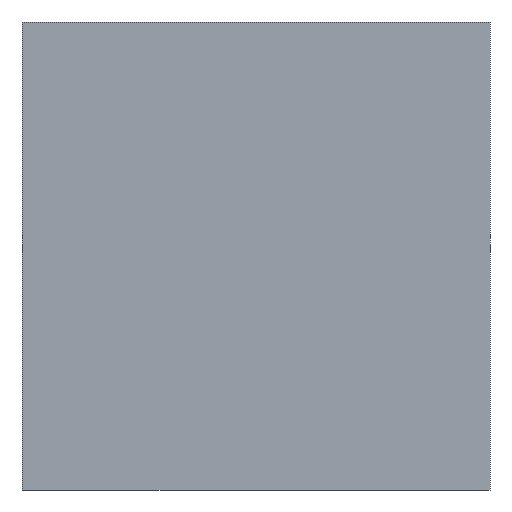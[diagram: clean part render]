
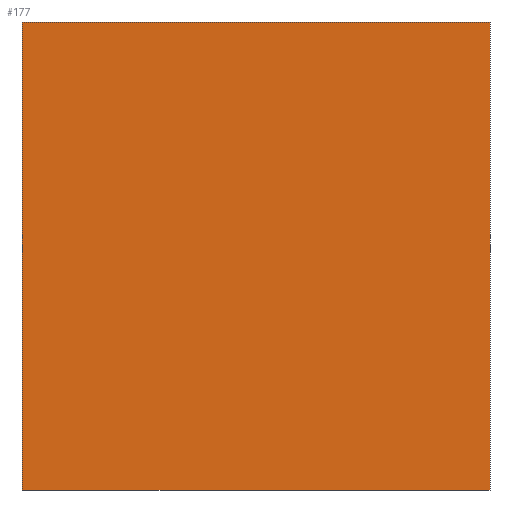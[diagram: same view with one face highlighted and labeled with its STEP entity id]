
A CAD part, left-side view. The second image highlights one B-rep face of the part: STEP entity #177.
In plain terms, the highlighted planar face has unit normal (-1, 0, 0).
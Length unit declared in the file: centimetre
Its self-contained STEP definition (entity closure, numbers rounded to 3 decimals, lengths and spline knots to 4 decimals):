
#1 = CARTESIAN_POINT ( 'NONE',  ( 0., 1000., 1000. ) ) ;
#12 = CARTESIAN_POINT ( 'NONE',  ( 0., 1000., 1000. ) ) ;
#16 = VECTOR ( 'NONE', #139, 100. ) ;
#31 = DIRECTION ( 'NONE',  ( 0., 0., -1. ) ) ;
#38 = DIRECTION ( 'NONE',  ( 1., 0., 0. ) ) ;
#62 = CARTESIAN_POINT ( 'NONE',  ( 0., 0., 0. ) ) ;
#65 = CARTESIAN_POINT ( 'NONE',  ( 0., 1000., 0. ) ) ;
#77 = DIRECTION ( 'NONE',  ( 0., -1., 0. ) ) ;
#131 = CARTESIAN_POINT ( 'NONE',  ( 0., 1000., 0. ) ) ;
#135 = CARTESIAN_POINT ( 'NONE',  ( 0., 1000., 1000. ) ) ;
#139 = DIRECTION ( 'NONE',  ( 0., 0., -1. ) ) ;
#159 = CARTESIAN_POINT ( 'NONE',  ( 0., 0., 1000. ) ) ;
#169 = ORIENTED_EDGE ( 'NONE', *, *, #418, .T. ) ;
#177 = ADVANCED_FACE ( 'NONE', ( #336 ), #329, .F. ) ;
#183 = VECTOR ( 'NONE', #325, 100. ) ;
#189 = AXIS2_PLACEMENT_3D ( 'NONE', #1, #38, #296 ) ;
#197 = LINE ( 'NONE', #131, #183 ) ;
#208 = ORIENTED_EDGE ( 'NONE', *, *, #234, .F. ) ;
#234 = EDGE_CURVE ( 'NONE', #382, #299, #272, .T. ) ;
#240 = ORIENTED_EDGE ( 'NONE', *, *, #376, .T. ) ;
#271 = LINE ( 'NONE', #339, #344 ) ;
#272 = LINE ( 'NONE', #12, #320 ) ;
#296 = DIRECTION ( 'NONE',  ( 0., 0., -1. ) ) ;
#297 = CARTESIAN_POINT ( 'NONE',  ( 0., 0., 1000. ) ) ;
#299 = VERTEX_POINT ( 'NONE', #159 ) ;
#320 = VECTOR ( 'NONE', #77, 100. ) ;
#322 = ORIENTED_EDGE ( 'NONE', *, *, #397, .F. ) ;
#325 = DIRECTION ( 'NONE',  ( 0., -1., 0. ) ) ;
#329 = PLANE ( 'NONE',  #189 ) ;
#336 = FACE_OUTER_BOUND ( 'NONE', #342, .T. ) ;
#339 = CARTESIAN_POINT ( 'NONE',  ( 0., 1000., 1000. ) ) ;
#342 = EDGE_LOOP ( 'NONE', ( #169, #322, #208, #240 ) ) ;
#344 = VECTOR ( 'NONE', #31, 100. ) ;
#360 = LINE ( 'NONE', #297, #16 ) ;
#376 = EDGE_CURVE ( 'NONE', #382, #415, #271, .T. ) ;
#382 = VERTEX_POINT ( 'NONE', #135 ) ;
#397 = EDGE_CURVE ( 'NONE', #299, #420, #360, .T. ) ;
#415 = VERTEX_POINT ( 'NONE', #65 ) ;
#418 = EDGE_CURVE ( 'NONE', #415, #420, #197, .T. ) ;
#420 = VERTEX_POINT ( 'NONE', #62 ) ;
